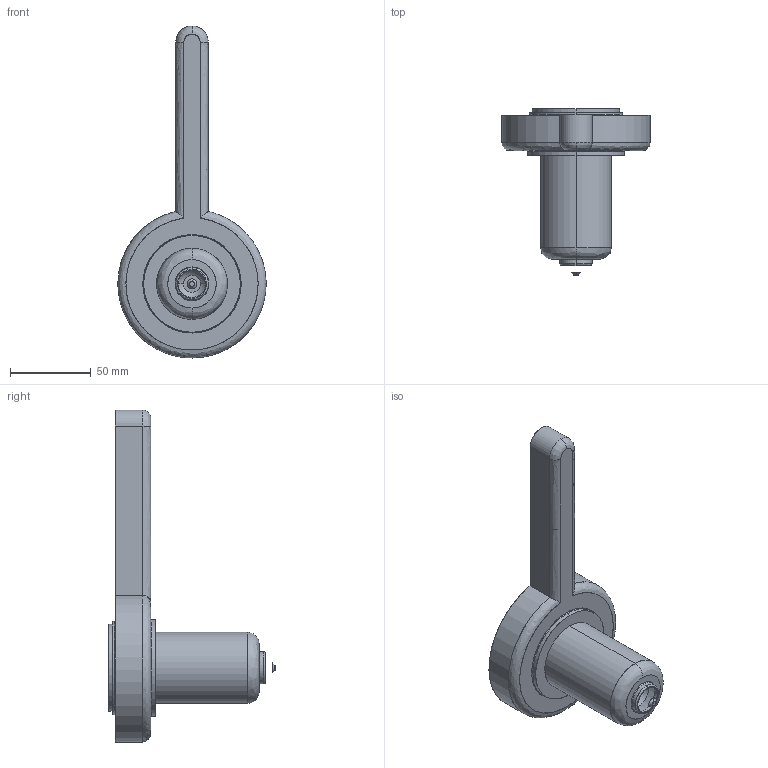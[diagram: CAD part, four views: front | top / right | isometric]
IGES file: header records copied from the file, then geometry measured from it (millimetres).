
Start section: SolidWorks IGES file using analytic representation for surfaces
Global section: file name: C:\Documents and Settings\ws-20\Desktop\TEM\Sede UGEP6003-S-A C-74 L-101 Ød-3.0.IGS; native system: SolidWorks 2012; preprocessor: SolidWorks 2012; author: ws-20; date: 120427.103432; units: millimetre
Bounding box: 91.99 x 103.19 x 206 mm (x, y, z)
Surface area: 37869.9 mm2 (no closed solid volume)
Topology: 0 solids, 0 shells, 44 faces, 984 edges, 984 vertices
Faces by surface type: revolution 27, bspline 17
